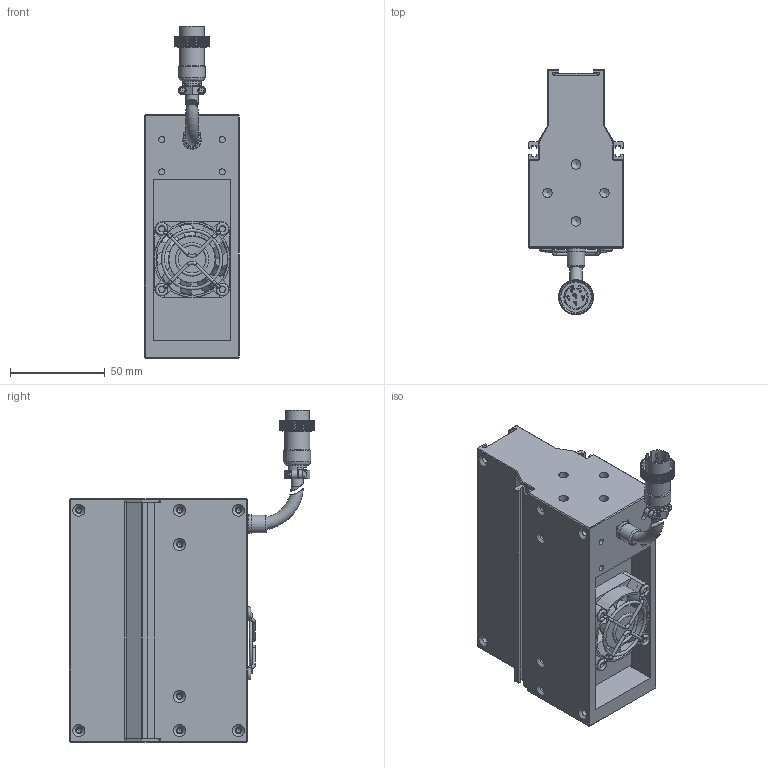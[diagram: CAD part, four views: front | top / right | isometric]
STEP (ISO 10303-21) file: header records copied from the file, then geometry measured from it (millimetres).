
FILE_DESCRIPTION (( 'STEP AP203' ), '1' );
FILE_NAME ('OPT-LSS128-R-V3.1U尨砩芞.STEP', '2025-01-20T07:25:55', ( 'USER' ), ( '' ), 'SwSTEP 2.0', 'SolidWorks 2016', '' );
FILE_SCHEMA (( 'CONFIG_CONTROL_DESIGN' ));
Products named in the file (2): OPT-LSS128-R-V3.1U尨砩芞
Bounding box: 50 x 129.15 x 174.83 mm (x, y, z)
Volume: 441405.1 mm3; surface area: 89233.9 mm2
Topology: 10 solids, 18 shells, 3506 faces, 7733 edges, 4310 vertices
Faces by surface type: bspline 2086, cylinder 692, plane 616, torus 63, cone 49
Full cylindrical faces by diameter (mm): 0.95 x6, 1.1 x2, 1.4 x2, 1.6 x4, 2 x5, 2.5 x16, 3.2 x8, 3.4 x16, 4 x4, 5 x8, 6.2 x4, 6.4 x3, 7.5 x1, 8.6 x1, 9.3 x1, 9.8 x1, 10 x1, 13.2 x1, 14 x1, 16.1 x1, 24.8 x1, 38 x1
Entity records: 118718 total; most frequent: CARTESIAN_POINT 60998, ORIENTED_EDGE 15028, EDGE_CURVE 7514, B_SPLINE_CURVE_WITH_KNOTS 5447, DIRECTION 5372, VERTEX_POINT 4258, EDGE_LOOP 3752, FACE_OUTER_BOUND 3620
